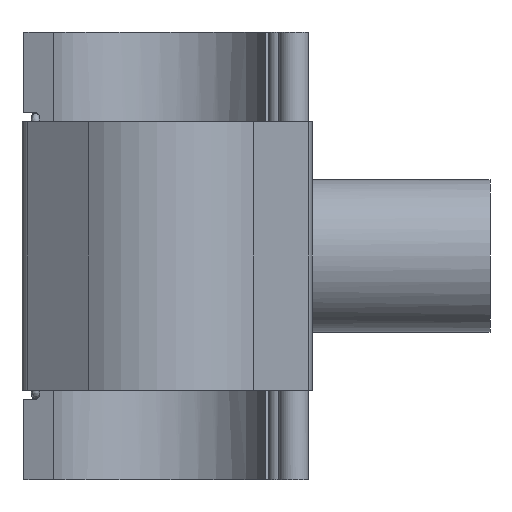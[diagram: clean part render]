
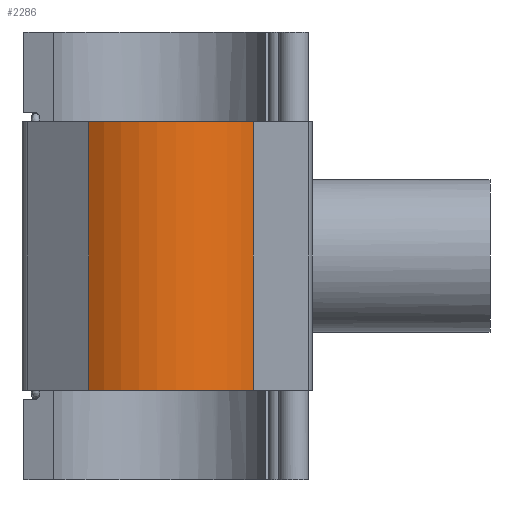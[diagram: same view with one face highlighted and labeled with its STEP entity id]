
A CAD part, front view. The second image highlights one B-rep face of the part: STEP entity #2286.
In plain terms, the highlighted cylindrical face has radius 45.681 mm (diameter 91.361 mm), a partial arc.
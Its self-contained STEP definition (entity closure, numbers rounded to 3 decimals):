
#217=FACE_OUTER_BOUND('',#352,.T.);
#352=EDGE_LOOP('',(#2025,#2026,#2027,#2028));
#447=CIRCLE('',#2449,45.681);
#453=CIRCLE('',#2456,45.681);
#710=LINE('',#4377,#899);
#715=LINE('',#4385,#904);
#899=VECTOR('',#3148,10.);
#904=VECTOR('',#3159,10.);
#1029=VERTEX_POINT('',#3896);
#1030=VERTEX_POINT('',#3898);
#1036=VERTEX_POINT('',#3915);
#1037=VERTEX_POINT('',#3917);
#1286=EDGE_CURVE('',#1029,#1030,#447,.T.);
#1297=EDGE_CURVE('',#1036,#1037,#453,.T.);
#1425=EDGE_CURVE('',#1036,#1030,#710,.T.);
#1430=EDGE_CURVE('',#1029,#1037,#715,.T.);
#2025=ORIENTED_EDGE('',*,*,#1430,.T.);
#2026=ORIENTED_EDGE('',*,*,#1297,.F.);
#2027=ORIENTED_EDGE('',*,*,#1425,.T.);
#2028=ORIENTED_EDGE('',*,*,#1286,.F.);
#2174=CYLINDRICAL_SURFACE('',#2534,45.681);
#2286=ADVANCED_FACE('',(#217),#2174,.T.);
#2449=AXIS2_PLACEMENT_3D('',#3899,#2895,#2896);
#2456=AXIS2_PLACEMENT_3D('',#3918,#2914,#2915);
#2534=AXIS2_PLACEMENT_3D('',#4386,#3160,#3161);
#2895=DIRECTION('center_axis',(0.,0.,-1.));
#2896=DIRECTION('ref_axis',(0.611,0.791,0.));
#2914=DIRECTION('center_axis',(0.,0.,1.));
#2915=DIRECTION('ref_axis',(0.611,0.791,0.));
#3148=DIRECTION('',(0.,0.,-1.));
#3159=DIRECTION('',(0.,0.,1.));
#3160=DIRECTION('center_axis',(0.,0.,1.));
#3161=DIRECTION('ref_axis',(0.611,0.791,0.));
#3896=CARTESIAN_POINT('',(36.82,-27.036,-52.807));
#3898=CARTESIAN_POINT('',(-27.932,-36.145,-52.807));
#3899=CARTESIAN_POINT('Origin',(0.,0.,
-52.807));
#3915=CARTESIAN_POINT('',(-27.932,-36.145,52.807));
#3917=CARTESIAN_POINT('',(36.82,-27.036,52.807));
#3918=CARTESIAN_POINT('Origin',(0.,0.,
52.807));
#4377=CARTESIAN_POINT('',(-27.932,-36.145,0.));
#4385=CARTESIAN_POINT('',(36.82,-27.036,0.));
#4386=CARTESIAN_POINT('Origin',(0.,0.,
0.));
